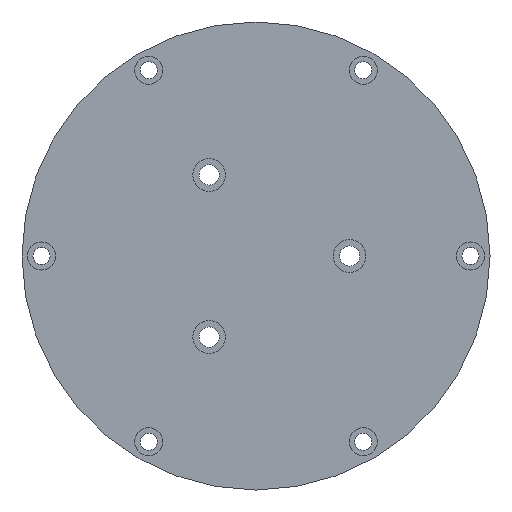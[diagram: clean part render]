
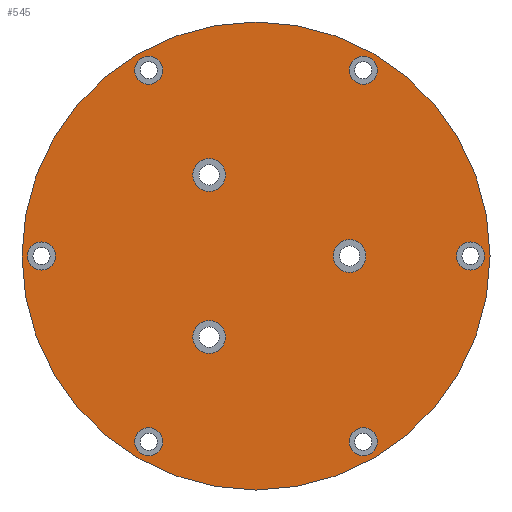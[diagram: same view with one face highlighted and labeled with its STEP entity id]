
A CAD part, front view. The second image highlights one B-rep face of the part: STEP entity #545.
In plain terms, the highlighted planar face has unit normal (0, -1, 0).
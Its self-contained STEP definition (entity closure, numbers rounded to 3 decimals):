
#45=PLANE('',#632);
#77=FACE_BOUND('',#205,.T.);
#78=FACE_BOUND('',#206,.T.);
#79=FACE_BOUND('',#207,.T.);
#80=FACE_BOUND('',#208,.T.);
#81=FACE_BOUND('',#209,.T.);
#82=FACE_BOUND('',#210,.T.);
#83=FACE_BOUND('',#211,.T.);
#84=FACE_BOUND('',#212,.T.);
#85=FACE_BOUND('',#213,.T.);
#135=FACE_OUTER_BOUND('',#204,.T.);
#204=EDGE_LOOP('',(#459));
#205=EDGE_LOOP('',(#460));
#206=EDGE_LOOP('',(#461));
#207=EDGE_LOOP('',(#462));
#208=EDGE_LOOP('',(#463));
#209=EDGE_LOOP('',(#464));
#210=EDGE_LOOP('',(#465));
#211=EDGE_LOOP('',(#466));
#212=EDGE_LOOP('',(#467));
#213=EDGE_LOOP('',(#468));
#235=CIRCLE('',#566,5.25);
#239=CIRCLE('',#573,5.25);
#243=CIRCLE('',#580,5.25);
#247=CIRCLE('',#587,4.5);
#251=CIRCLE('',#594,4.5);
#255=CIRCLE('',#601,4.5);
#259=CIRCLE('',#608,4.5);
#263=CIRCLE('',#615,4.5);
#267=CIRCLE('',#622,4.5);
#272=CIRCLE('',#631,75.);
#285=VERTEX_POINT('',#852);
#289=VERTEX_POINT('',#863);
#293=VERTEX_POINT('',#874);
#297=VERTEX_POINT('',#885);
#301=VERTEX_POINT('',#896);
#305=VERTEX_POINT('',#907);
#309=VERTEX_POINT('',#918);
#313=VERTEX_POINT('',#929);
#317=VERTEX_POINT('',#940);
#322=VERTEX_POINT('',#954);
#339=EDGE_CURVE('',#285,#285,#235,.T.);
#343=EDGE_CURVE('',#289,#289,#239,.T.);
#347=EDGE_CURVE('',#293,#293,#243,.T.);
#351=EDGE_CURVE('',#297,#297,#247,.T.);
#355=EDGE_CURVE('',#301,#301,#251,.T.);
#359=EDGE_CURVE('',#305,#305,#255,.T.);
#363=EDGE_CURVE('',#309,#309,#259,.T.);
#367=EDGE_CURVE('',#313,#313,#263,.T.);
#371=EDGE_CURVE('',#317,#317,#267,.T.);
#376=EDGE_CURVE('',#322,#322,#272,.T.);
#459=ORIENTED_EDGE('',*,*,#376,.T.);
#460=ORIENTED_EDGE('',*,*,#339,.T.);
#461=ORIENTED_EDGE('',*,*,#343,.T.);
#462=ORIENTED_EDGE('',*,*,#347,.T.);
#463=ORIENTED_EDGE('',*,*,#351,.T.);
#464=ORIENTED_EDGE('',*,*,#355,.T.);
#465=ORIENTED_EDGE('',*,*,#359,.T.);
#466=ORIENTED_EDGE('',*,*,#363,.T.);
#467=ORIENTED_EDGE('',*,*,#367,.T.);
#468=ORIENTED_EDGE('',*,*,#371,.T.);
#545=ADVANCED_FACE('',(#135,#77,#78,#79,#80,#81,#82,#83,#84,#85),#45,.F.);
#566=AXIS2_PLACEMENT_3D('',#853,#678,#679);
#573=AXIS2_PLACEMENT_3D('',#864,#692,#693);
#580=AXIS2_PLACEMENT_3D('',#875,#706,#707);
#587=AXIS2_PLACEMENT_3D('',#886,#720,#721);
#594=AXIS2_PLACEMENT_3D('',#897,#734,#735);
#601=AXIS2_PLACEMENT_3D('',#908,#748,#749);
#608=AXIS2_PLACEMENT_3D('',#919,#762,#763);
#615=AXIS2_PLACEMENT_3D('',#930,#776,#777);
#622=AXIS2_PLACEMENT_3D('',#941,#790,#791);
#631=AXIS2_PLACEMENT_3D('',#955,#808,#809);
#632=AXIS2_PLACEMENT_3D('',#956,#810,#811);
#678=DIRECTION('center_axis',(0.,1.,0.));
#679=DIRECTION('ref_axis',(-0.5,0.,0.866));
#692=DIRECTION('center_axis',(0.,1.,0.));
#693=DIRECTION('ref_axis',(-0.5,0.,-0.866));
#706=DIRECTION('center_axis',(0.,1.,0.));
#707=DIRECTION('ref_axis',(1.,0.,0.));
#720=DIRECTION('center_axis',(0.,1.,0.));
#721=DIRECTION('ref_axis',(0.5,0.,0.866));
#734=DIRECTION('center_axis',(0.,1.,0.));
#735=DIRECTION('ref_axis',(-0.5,0.,0.866));
#748=DIRECTION('center_axis',(0.,1.,0.));
#749=DIRECTION('ref_axis',(-1.,0.,0.));
#762=DIRECTION('center_axis',(0.,1.,0.));
#763=DIRECTION('ref_axis',(-0.5,0.,-0.866));
#776=DIRECTION('center_axis',(0.,1.,0.));
#777=DIRECTION('ref_axis',(0.5,0.,-0.866));
#790=DIRECTION('center_axis',(0.,1.,0.));
#791=DIRECTION('ref_axis',(1.,0.,0.));
#808=DIRECTION('center_axis',(0.,-1.,0.));
#809=DIRECTION('ref_axis',(1.,0.,0.));
#810=DIRECTION('center_axis',(0.,1.,0.));
#811=DIRECTION('ref_axis',(0.,0.,1.));
#852=CARTESIAN_POINT('',(27.375,0.,4.547));
#853=CARTESIAN_POINT('Origin',(30.,0.,0.));
#863=CARTESIAN_POINT('',(-17.625,0.,21.434));
#864=CARTESIAN_POINT('Origin',(-15.,0.,25.981));
#874=CARTESIAN_POINT('',(-9.75,0.,-25.981));
#875=CARTESIAN_POINT('Origin',(-15.,0.,-25.981));
#885=CARTESIAN_POINT('',(36.625,0.,63.436));
#886=CARTESIAN_POINT('Origin',(34.375,0.,59.539));
#896=CARTESIAN_POINT('',(-36.625,0.,63.436));
#897=CARTESIAN_POINT('Origin',(-34.375,0.,59.539));
#907=CARTESIAN_POINT('',(-73.25,0.,0.));
#908=CARTESIAN_POINT('Origin',(-68.75,0.,0.));
#918=CARTESIAN_POINT('',(-36.625,0.,-63.436));
#919=CARTESIAN_POINT('Origin',(-34.375,0.,-59.539));
#929=CARTESIAN_POINT('',(36.625,0.,-63.436));
#930=CARTESIAN_POINT('Origin',(34.375,0.,-59.539));
#940=CARTESIAN_POINT('',(73.25,0.,0.));
#941=CARTESIAN_POINT('Origin',(68.75,0.,0.));
#954=CARTESIAN_POINT('',(-75.,0.,0.));
#955=CARTESIAN_POINT('Origin',(0.,0.,0.));
#956=CARTESIAN_POINT('Origin',(0.,0.,0.));
